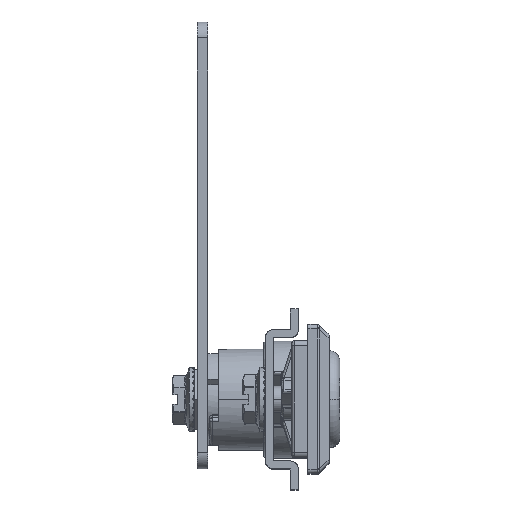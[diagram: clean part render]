
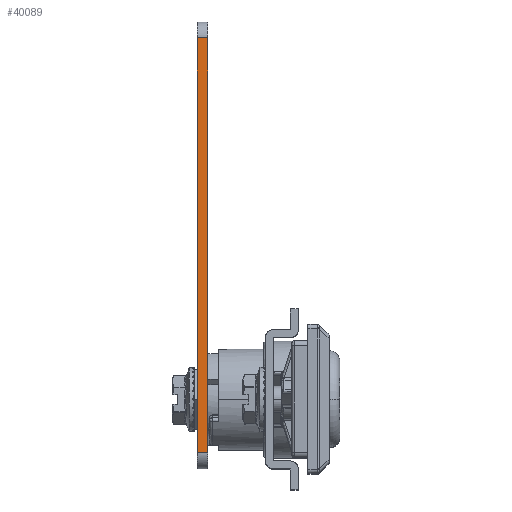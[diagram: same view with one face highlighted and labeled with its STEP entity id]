
A CAD part, top view. The second image highlights one B-rep face of the part: STEP entity #40089.
In plain terms, the highlighted planar face has unit normal (0, 0, -1).
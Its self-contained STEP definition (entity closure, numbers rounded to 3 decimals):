
#6096 = CARTESIAN_POINT ( 'NONE',  ( -24.038, 68., -24.5 ) ) ;
#6931 = VECTOR ( 'NONE', #12540, 1000. ) ;
#7087 = DIRECTION ( 'NONE',  ( 0., -1., 0. ) ) ;
#7789 = LINE ( 'NONE', #17769, #27437 ) ;
#11852 = CARTESIAN_POINT ( 'NONE',  ( -24.05, -10., -24.5 ) ) ;
#12540 = DIRECTION ( 'NONE',  ( 1., 0., 0. ) ) ;
#15399 = DIRECTION ( 'NONE',  ( -1., 0., 0. ) ) ;
#17044 = CARTESIAN_POINT ( 'NONE',  ( -24.8, 68., -24.5 ) ) ;
#17769 = CARTESIAN_POINT ( 'NONE',  ( -24.8, 30., -24.5 ) ) ;
#27242 = CARTESIAN_POINT ( 'NONE',  ( -22.8, -10., -24.5 ) ) ;
#27437 = VECTOR ( 'NONE', #7087, 1000. ) ;
#34345 = CARTESIAN_POINT ( 'NONE',  ( -22.8, -10., -24.5 ) ) ;
#35095 = VECTOR ( 'NONE', #15399, 1000. ) ;
#35461 = ORIENTED_EDGE ( 'NONE', *, *, #118069, .F. ) ;
#36925 = CARTESIAN_POINT ( 'NONE',  ( -24.8, -10., -24.5 ) ) ;
#37917 = FACE_OUTER_BOUND ( 'NONE', #135086, .T. ) ;
#38868 = EDGE_CURVE ( 'NONE', #61430, #98731, #49430, .T. ) ;
#39237 = ORIENTED_EDGE ( 'NONE', *, *, #53738, .F. ) ;
#40089 = ADVANCED_FACE ( 'NONE', ( #37917 ), #124777, .F. ) ;
#48224 = ORIENTED_EDGE ( 'NONE', *, *, #124772, .F. ) ;
#49430 = LINE ( 'NONE', #60067, #86604 ) ;
#52741 = VERTEX_POINT ( 'NONE', #17044 ) ;
#53738 = EDGE_CURVE ( 'NONE', #98731, #52741, #69404, .T. ) ;
#60067 = CARTESIAN_POINT ( 'NONE',  ( -22.8, 30., -24.5 ) ) ;
#60358 = CARTESIAN_POINT ( 'NONE',  ( -22.8, 68., -24.5 ) ) ;
#61430 = VERTEX_POINT ( 'NONE', #34345 ) ;
#69404 = LINE ( 'NONE', #6096, #35095 ) ;
#79887 = DIRECTION ( 'NONE',  ( 0., 1., 0. ) ) ;
#84501 = VERTEX_POINT ( 'NONE', #36925 ) ;
#86604 = VECTOR ( 'NONE', #103490, 1000. ) ;
#98731 = VERTEX_POINT ( 'NONE', #60358 ) ;
#100003 = LINE ( 'NONE', #11852, #6931 ) ;
#103490 = DIRECTION ( 'NONE',  ( 0., 1., 0. ) ) ;
#104925 = ORIENTED_EDGE ( 'NONE', *, *, #38868, .F. ) ;
#107122 = AXIS2_PLACEMENT_3D ( 'NONE', #27242, #114077, #79887 ) ;
#114077 = DIRECTION ( 'NONE',  ( 0., 0., 1. ) ) ;
#118069 = EDGE_CURVE ( 'NONE', #52741, #84501, #7789, .T. ) ;
#124772 = EDGE_CURVE ( 'NONE', #84501, #61430, #100003, .T. ) ;
#124777 = PLANE ( 'NONE',  #107122 ) ;
#135086 = EDGE_LOOP ( 'NONE', ( #104925, #48224, #35461, #39237 ) ) ;
